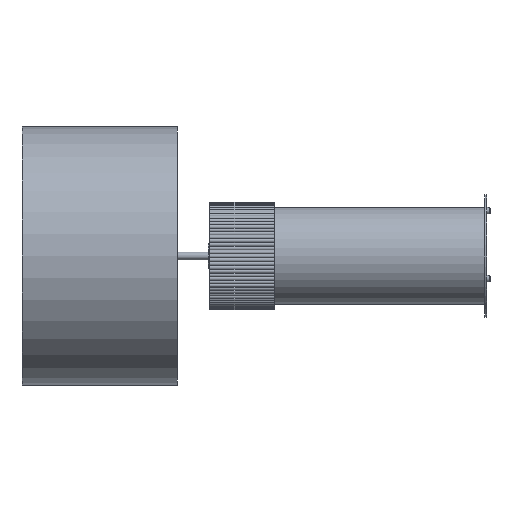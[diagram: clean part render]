
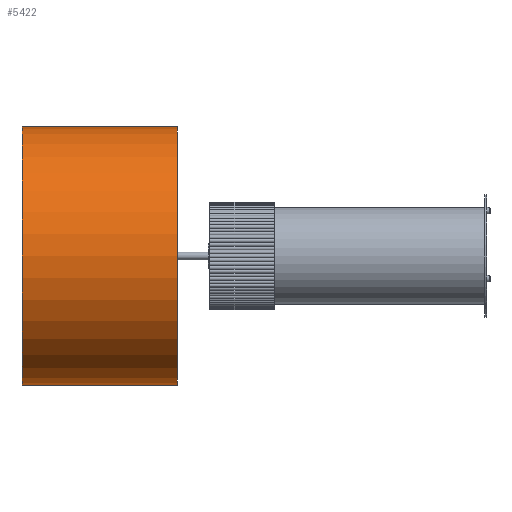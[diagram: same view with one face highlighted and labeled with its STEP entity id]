
A CAD part, left-side view. The second image highlights one B-rep face of the part: STEP entity #5422.
In plain terms, the highlighted cylindrical face has radius 200 mm (diameter 400 mm), a partial arc.
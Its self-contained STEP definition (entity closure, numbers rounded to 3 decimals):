
#6 = VERTEX_POINT ( 'NONE', #2669 ) ;
#160 = VECTOR ( 'NONE', #2937, 1000. ) ;
#300 = EDGE_CURVE ( 'NONE', #6, #5482, #3203, .T. ) ;
#560 = ORIENTED_EDGE ( 'NONE', *, *, #2352, .T. ) ;
#632 = ORIENTED_EDGE ( 'NONE', *, *, #5385, .F. ) ;
#641 = DIRECTION ( 'NONE',  ( 0., 1., 0. ) ) ;
#712 = DIRECTION ( 'NONE',  ( 0., 0., 1. ) ) ;
#723 = CARTESIAN_POINT ( 'NONE',  ( 0., 390., 200. ) ) ;
#1058 = DIRECTION ( 'NONE',  ( 0., 0., 1. ) ) ;
#1167 = VECTOR ( 'NONE', #3629, 1000. ) ;
#1278 = DIRECTION ( 'NONE',  ( 0., 0., -1. ) ) ;
#1365 = CARTESIAN_POINT ( 'NONE',  ( 0., 390., -200. ) ) ;
#1468 = LINE ( 'NONE', #723, #160 ) ;
#1547 = CARTESIAN_POINT ( 'NONE',  ( 0., 390., 0. ) ) ;
#1773 = AXIS2_PLACEMENT_3D ( 'NONE', #1547, #4239, #712 ) ;
#1806 = ORIENTED_EDGE ( 'NONE', *, *, #300, .T. ) ;
#2352 = EDGE_CURVE ( 'NONE', #3592, #6, #2668, .T. ) ;
#2668 = LINE ( 'NONE', #1365, #1167 ) ;
#2669 = CARTESIAN_POINT ( 'NONE',  ( 0., 150., -200. ) ) ;
#2937 = DIRECTION ( 'NONE',  ( 0., -1., 0. ) ) ;
#3046 = CARTESIAN_POINT ( 'NONE',  ( 0., 390., 0. ) ) ;
#3203 = CIRCLE ( 'NONE', #3735, 200. ) ;
#3592 = VERTEX_POINT ( 'NONE', #3896 ) ;
#3629 = DIRECTION ( 'NONE',  ( 0., -1., 0. ) ) ;
#3735 = AXIS2_PLACEMENT_3D ( 'NONE', #5439, #641, #1058 ) ;
#3749 = AXIS2_PLACEMENT_3D ( 'NONE', #3046, #3882, #1278 ) ;
#3764 = CYLINDRICAL_SURFACE ( 'NONE', #3749, 200. ) ;
#3882 = DIRECTION ( 'NONE',  ( 0., -1., 0. ) ) ;
#3896 = CARTESIAN_POINT ( 'NONE',  ( 0., 390., -200. ) ) ;
#3898 = CARTESIAN_POINT ( 'NONE',  ( 0., 150., 200. ) ) ;
#3909 = FACE_OUTER_BOUND ( 'NONE', #4749, .T. ) ;
#4239 = DIRECTION ( 'NONE',  ( 0., 1., 0. ) ) ;
#4303 = ORIENTED_EDGE ( 'NONE', *, *, #4743, .F. ) ;
#4743 = EDGE_CURVE ( 'NONE', #3592, #5655, #5289, .T. ) ;
#4749 = EDGE_LOOP ( 'NONE', ( #632, #4303, #560, #1806 ) ) ;
#4999 = CARTESIAN_POINT ( 'NONE',  ( 0., 390., 200. ) ) ;
#5289 = CIRCLE ( 'NONE', #1773, 200. ) ;
#5385 = EDGE_CURVE ( 'NONE', #5655, #5482, #1468, .T. ) ;
#5422 = ADVANCED_FACE ( 'NONE', ( #3909 ), #3764, .T. ) ;
#5439 = CARTESIAN_POINT ( 'NONE',  ( 0., 150., 0. ) ) ;
#5482 = VERTEX_POINT ( 'NONE', #3898 ) ;
#5655 = VERTEX_POINT ( 'NONE', #4999 ) ;
